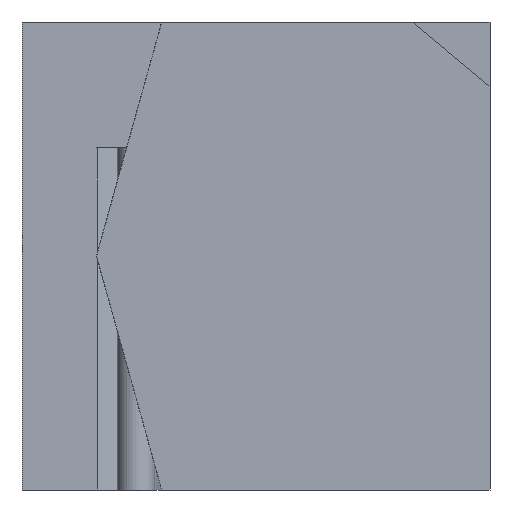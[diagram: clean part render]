
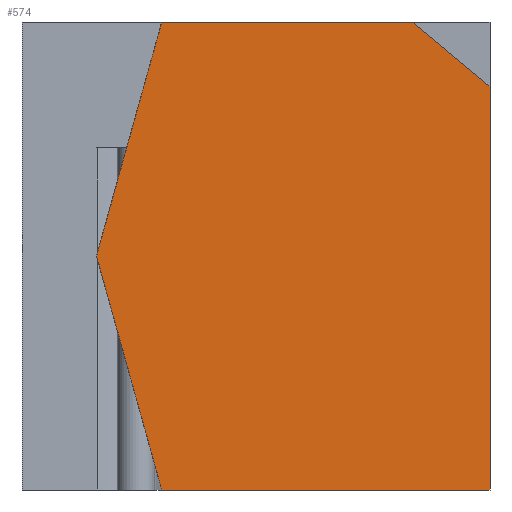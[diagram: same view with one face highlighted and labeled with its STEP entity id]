
A CAD part, front view. The second image highlights one B-rep face of the part: STEP entity #574.
In plain terms, the highlighted planar face has unit normal (0, -1, 0).
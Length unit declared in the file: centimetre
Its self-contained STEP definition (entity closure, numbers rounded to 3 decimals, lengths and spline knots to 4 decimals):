
#17 = VERTEX_POINT ( 'NONE', #372 ) ;
#65 = PLANE ( 'NONE',  #550 ) ;
#70 = LINE ( 'NONE', #789, #270 ) ;
#72 = VECTOR ( 'NONE', #565, 100. ) ;
#87 = VERTEX_POINT ( 'NONE', #605 ) ;
#107 = EDGE_CURVE ( 'NONE', #87, #17, #848, .T. ) ;
#111 = LINE ( 'NONE', #436, #812 ) ;
#113 = CARTESIAN_POINT ( 'NONE',  ( 1000., 0., 862.0918 ) ) ;
#114 = DIRECTION ( 'NONE',  ( -0.269, 0., 0.963 ) ) ;
#127 = DIRECTION ( 'NONE',  ( 0., 0., -1. ) ) ;
#141 = DIRECTION ( 'NONE',  ( 0.269, 0., 0.963 ) ) ;
#148 = DIRECTION ( 'NONE',  ( 0., 1., 0. ) ) ;
#165 = CARTESIAN_POINT ( 'NONE',  ( 1000., 0., 0. ) ) ;
#211 = ORIENTED_EDGE ( 'NONE', *, *, #661, .F. ) ;
#214 = DIRECTION ( 'NONE',  ( 0.767, 0., -0.642 ) ) ;
#219 = VERTEX_POINT ( 'NONE', #165 ) ;
#243 = CARTESIAN_POINT ( 'NONE',  ( 0., 0., 1000. ) ) ;
#252 = VECTOR ( 'NONE', #214, 100. ) ;
#270 = VECTOR ( 'NONE', #141, 100. ) ;
#282 = CARTESIAN_POINT ( 'NONE',  ( 1000., 0., 862.0918 ) ) ;
#283 = VECTOR ( 'NONE', #114, 100. ) ;
#339 = VECTOR ( 'NONE', #1053, 100. ) ;
#372 = CARTESIAN_POINT ( 'NONE',  ( 159.2413, 0., 500. ) ) ;
#407 = FACE_OUTER_BOUND ( 'NONE', #904, .T. ) ;
#436 = CARTESIAN_POINT ( 'NONE',  ( 1000., 0., 1000. ) ) ;
#488 = VERTEX_POINT ( 'NONE', #282 ) ;
#490 = EDGE_CURVE ( 'NONE', #689, #488, #600, .T. ) ;
#492 = ORIENTED_EDGE ( 'NONE', *, *, #490, .F. ) ;
#528 = CARTESIAN_POINT ( 'NONE',  ( 298.7959, 0., 1000. ) ) ;
#550 = AXIS2_PLACEMENT_3D ( 'NONE', #953, #148, #797 ) ;
#560 = EDGE_CURVE ( 'NONE', #87, #219, #709, .T. ) ;
#565 = DIRECTION ( 'NONE',  ( 1., 0., 0. ) ) ;
#574 = ADVANCED_FACE ( 'NONE', ( #407 ), #65, .F. ) ;
#598 = EDGE_CURVE ( 'NONE', #17, #864, #70, .T. ) ;
#600 = LINE ( 'NONE', #113, #252 ) ;
#605 = CARTESIAN_POINT ( 'NONE',  ( 298.7959, 0., 0. ) ) ;
#624 = CARTESIAN_POINT ( 'NONE',  ( 835.1213, 0., 1000. ) ) ;
#661 = EDGE_CURVE ( 'NONE', #864, #689, #968, .T. ) ;
#679 = CARTESIAN_POINT ( 'NONE',  ( 159.2413, 0., 500. ) ) ;
#689 = VERTEX_POINT ( 'NONE', #624 ) ;
#709 = LINE ( 'NONE', #1048, #339 ) ;
#711 = ORIENTED_EDGE ( 'NONE', *, *, #560, .T. ) ;
#789 = CARTESIAN_POINT ( 'NONE',  ( 298.7959, 0., 1000. ) ) ;
#797 = DIRECTION ( 'NONE',  ( 0., 0., 1. ) ) ;
#812 = VECTOR ( 'NONE', #127, 100. ) ;
#848 = LINE ( 'NONE', #679, #283 ) ;
#864 = VERTEX_POINT ( 'NONE', #528 ) ;
#870 = ORIENTED_EDGE ( 'NONE', *, *, #911, .F. ) ;
#888 = ORIENTED_EDGE ( 'NONE', *, *, #598, .F. ) ;
#904 = EDGE_LOOP ( 'NONE', ( #211, #888, #974, #711, #870, #492 ) ) ;
#911 = EDGE_CURVE ( 'NONE', #488, #219, #111, .T. ) ;
#953 = CARTESIAN_POINT ( 'NONE',  ( 0., 0., 1000. ) ) ;
#968 = LINE ( 'NONE', #243, #72 ) ;
#974 = ORIENTED_EDGE ( 'NONE', *, *, #107, .F. ) ;
#1048 = CARTESIAN_POINT ( 'NONE',  ( 0., 0., 0. ) ) ;
#1053 = DIRECTION ( 'NONE',  ( 1., 0., 0. ) ) ;
